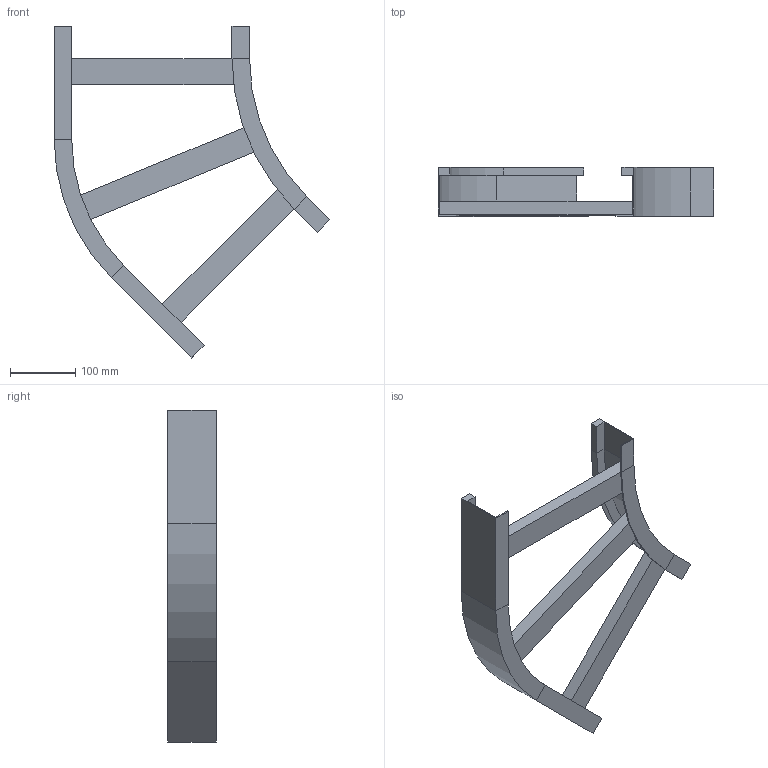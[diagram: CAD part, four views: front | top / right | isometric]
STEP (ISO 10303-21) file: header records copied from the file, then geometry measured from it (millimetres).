
FILE_DESCRIPTION (( 'STEP AP214' ), '1' );
FILE_NAME ('B2_11B3C300.step', '2025-02-21T15:16:32', ( '' ), ( '' ), 'SwSTEP 2.0', 'SolidWorks 2023', '' );
FILE_SCHEMA (( 'AUTOMOTIVE_DESIGN' ));
Length unit declared in the file: millimetre
Products named in the file (5): B2_LONGH.INTERNO 45°_H75_R300; B2_11B3C300; TRAVERSINO_L320; TRAVERSINO_300; B2_LONGH.ESTERNO 45°_H75_R300+300
Assembly tree (5 placements, depth 2):
  B2_11B3C300
    B2_LONGH.INTERNO 45°_H75_R300
    B2_LONGH.ESTERNO 45°_H75_R300+300
    TRAVERSINO_300  x2
    TRAVERSINO_L320
Bounding box: 423.22 x 75 x 509.62 mm (x, y, z)
Volume: 1099268.7 mm3; surface area: 333845 mm2
Topology: 5 solids, 5 shells, 70 faces, 148 edges, 88 vertices
Faces by surface type: plane 62, cylinder 8
Entity records: 1822 total; most frequent: DIRECTION 296, CARTESIAN_POINT 288, ORIENTED_EDGE 272, EDGE_CURVE 136, VECTOR 120, LINE 120, AXIS2_PLACEMENT_3D 88, VERTEX_POINT 80
